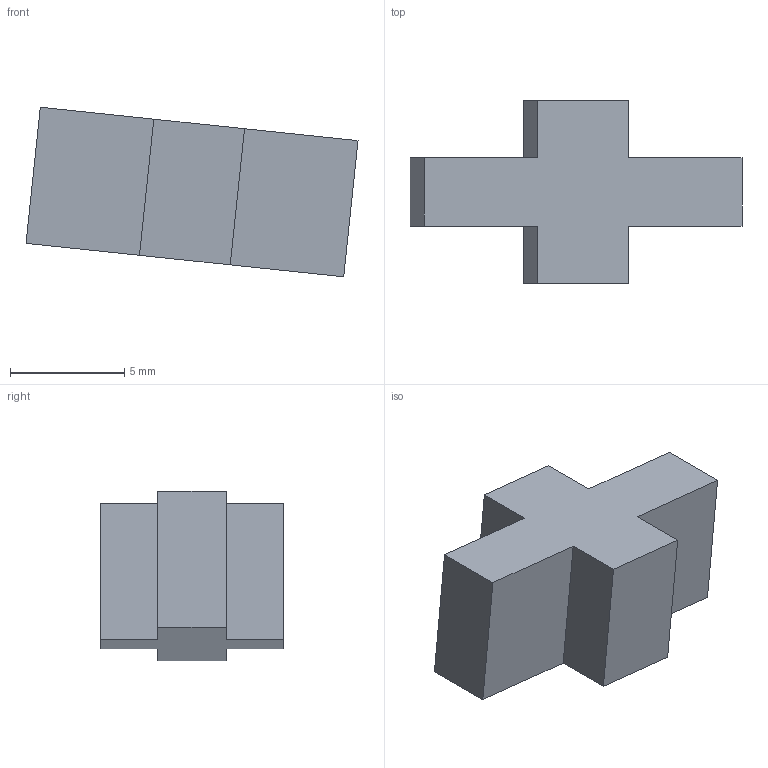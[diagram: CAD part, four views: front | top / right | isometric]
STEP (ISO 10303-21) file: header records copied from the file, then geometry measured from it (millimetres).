
FILE_DESCRIPTION(/* description */ (''),/* implementation_level */ '2;1');
FILE_NAME(/* name */ 'C:/Users/alfreddevries/Documents/3D-Prints/Lube Station/Connectors.step',/* time_stamp */ '2021-02-05T22:57:11+01:00',/* author */ (''),/* organization */ (''),/* preprocessor_version */ 'ST-DEVELOPER v18.1',/* originating_system */ 'Autodesk Translation Framework v9.7.1.1290',/* authorisation */ '');
FILE_SCHEMA (('AUTOMOTIVE_DESIGN { 1 0 10303 214 3 1 1 }'));
Length unit declared in the file: millimetre
Products named in the file (2): Custom Lube Station; Connectors
Assembly tree (1 placements, depth 2):
  Custom Lube Station
    Connectors
Bounding box: 14.55 x 8 x 7.43 mm (x, y, z)
Volume: 372 mm3; surface area: 388 mm2
Topology: 1 solids, 1 shells, 14 faces, 36 edges, 24 vertices
Faces by surface type: plane 14
Entity records: 508 total; most frequent: CARTESIAN_POINT 77, ORIENTED_EDGE 72, DIRECTION 70, LINE 36, VECTOR 36, EDGE_CURVE 36, VERTEX_POINT 24, AXIS2_PLACEMENT_3D 17
